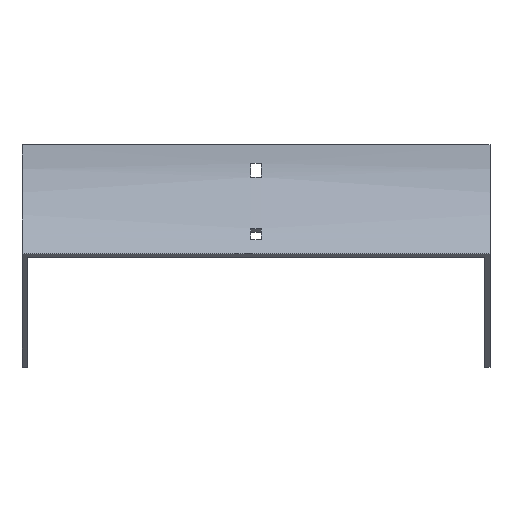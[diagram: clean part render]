
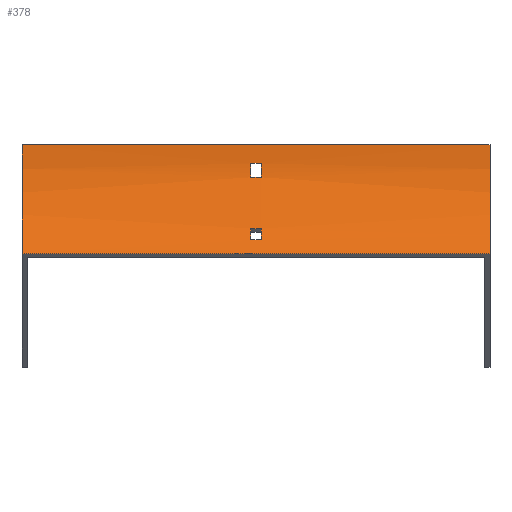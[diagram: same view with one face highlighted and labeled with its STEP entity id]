
A CAD part, front view. The second image highlights one B-rep face of the part: STEP entity #378.
In plain terms, the highlighted cylindrical face has radius 100 mm (diameter 200 mm), a partial arc.
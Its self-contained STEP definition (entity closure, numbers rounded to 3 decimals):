
#9 = VECTOR ( 'NONE', #1610, 1000. ) ;
#11 = CIRCLE ( 'NONE', #1523, 100. ) ;
#66 = EDGE_CURVE ( 'NONE', #133, #1441, #554, .T. ) ;
#84 = CARTESIAN_POINT ( 'NONE',  ( 3.25, -16.017, -54.285 ) ) ;
#92 = CIRCLE ( 'NONE', #1459, 100. ) ;
#113 = AXIS2_PLACEMENT_3D ( 'NONE', #659, #791, #1217 ) ;
#119 = EDGE_CURVE ( 'NONE', #1189, #133, #92, .T. ) ;
#123 = DIRECTION ( 'NONE',  ( -1., 0., 0. ) ) ;
#133 = VERTEX_POINT ( 'NONE', #84 ) ;
#140 = CIRCLE ( 'NONE', #1086, 100. ) ;
#175 = CARTESIAN_POINT ( 'NONE',  ( -3.25, -21.315, -61.714 ) ) ;
#181 = CARTESIAN_POINT ( 'NONE',  ( -3.25, -16.017, -54.285 ) ) ;
#188 = CARTESIAN_POINT ( 'NONE',  ( -152., 0., 0. ) ) ;
#191 = LINE ( 'NONE', #693, #9 ) ;
#205 = CARTESIAN_POINT ( 'NONE',  ( -152., -100., 0. ) ) ;
#216 = DIRECTION ( 'NONE',  ( 0., 0., 1. ) ) ;
#276 = CIRCLE ( 'NONE', #641, 100. ) ;
#305 = CARTESIAN_POINT ( 'NONE',  ( 152., -29.289, -70.711 ) ) ;
#322 = EDGE_CURVE ( 'NONE', #1247, #1499, #191, .T. ) ;
#325 = EDGE_CURVE ( 'NONE', #1441, #995, #140, .T. ) ;
#332 = DIRECTION ( 'NONE',  ( 1., 0., 0. ) ) ;
#349 = CARTESIAN_POINT ( 'NONE',  ( -3.25, -2.23, -21. ) ) ;
#354 = ORIENTED_EDGE ( 'NONE', *, *, #322, .T. ) ;
#378 = ADVANCED_FACE ( 'NONE', ( #486, #1407, #1284 ), #668, .F. ) ;
#382 = CARTESIAN_POINT ( 'NONE',  ( 152., -2.23, -21. ) ) ;
#390 = VECTOR ( 'NONE', #1413, 1000. ) ;
#395 = CARTESIAN_POINT ( 'NONE',  ( -152., -29.289, -70.711 ) ) ;
#396 = VERTEX_POINT ( 'NONE', #395 ) ;
#397 = LINE ( 'NONE', #382, #1657 ) ;
#443 = DIRECTION ( 'NONE',  ( 0., 0., -1. ) ) ;
#452 = VECTOR ( 'NONE', #332, 1000. ) ;
#453 = CARTESIAN_POINT ( 'NONE',  ( -3.25, -100., 0. ) ) ;
#463 = DIRECTION ( 'NONE',  ( 0., 0., 1. ) ) ;
#486 = FACE_OUTER_BOUND ( 'NONE', #1493, .T. ) ;
#501 = CARTESIAN_POINT ( 'NONE',  ( 3.25, -2.23, -21. ) ) ;
#506 = VECTOR ( 'NONE', #1035, 1000. ) ;
#526 = ORIENTED_EDGE ( 'NONE', *, *, #1134, .F. ) ;
#554 = LINE ( 'NONE', #1085, #1383 ) ;
#570 = ORIENTED_EDGE ( 'NONE', *, *, #1224, .T. ) ;
#578 = DIRECTION ( 'NONE',  ( -1., 0., 0. ) ) ;
#585 = DIRECTION ( 'NONE',  ( 1., 0., 0. ) ) ;
#602 = DIRECTION ( 'NONE',  ( 0., 0., 1. ) ) ;
#609 = EDGE_CURVE ( 'NONE', #1477, #1177, #276, .T. ) ;
#621 = VERTEX_POINT ( 'NONE', #305 ) ;
#632 = DIRECTION ( 'NONE',  ( -1., 0., 0. ) ) ;
#641 = AXIS2_PLACEMENT_3D ( 'NONE', #1622, #578, #443 ) ;
#659 = CARTESIAN_POINT ( 'NONE',  ( 152., -100., 0. ) ) ;
#663 = CARTESIAN_POINT ( 'NONE',  ( 152., -29.289, -70.711 ) ) ;
#668 = CYLINDRICAL_SURFACE ( 'NONE', #113, 100. ) ;
#693 = CARTESIAN_POINT ( 'NONE',  ( 152., 0., 0. ) ) ;
#721 = DIRECTION ( 'NONE',  ( 1., 0., 0. ) ) ;
#739 = EDGE_CURVE ( 'NONE', #1247, #621, #870, .T. ) ;
#780 = EDGE_CURVE ( 'NONE', #621, #396, #1576, .T. ) ;
#791 = DIRECTION ( 'NONE',  ( -1., 0., 0. ) ) ;
#839 = ORIENTED_EDGE ( 'NONE', *, *, #1118, .T. ) ;
#851 = DIRECTION ( 'NONE',  ( 0., 0., -1. ) ) ;
#870 = CIRCLE ( 'NONE', #1172, 100. ) ;
#884 = DIRECTION ( 'NONE',  ( 0., 0., 1. ) ) ;
#915 = LINE ( 'NONE', #1429, #390 ) ;
#986 = CARTESIAN_POINT ( 'NONE',  ( 3.25, -0.723, -12. ) ) ;
#995 = VERTEX_POINT ( 'NONE', #175 ) ;
#1008 = ORIENTED_EDGE ( 'NONE', *, *, #1694, .T. ) ;
#1012 = CARTESIAN_POINT ( 'NONE',  ( 152., -100., 0. ) ) ;
#1035 = DIRECTION ( 'NONE',  ( -1., 0., 0. ) ) ;
#1041 = CARTESIAN_POINT ( 'NONE',  ( 3.25, -21.315, -61.714 ) ) ;
#1071 = EDGE_CURVE ( 'NONE', #1499, #396, #1574, .T. ) ;
#1085 = CARTESIAN_POINT ( 'NONE',  ( 152., -16.017, -54.285 ) ) ;
#1086 = AXIS2_PLACEMENT_3D ( 'NONE', #453, #1503, #851 ) ;
#1091 = ORIENTED_EDGE ( 'NONE', *, *, #1071, .T. ) ;
#1105 = EDGE_LOOP ( 'NONE', ( #570, #839, #1008, #1386 ) ) ;
#1115 = DIRECTION ( 'NONE',  ( -1., 0., 0. ) ) ;
#1118 = EDGE_CURVE ( 'NONE', #1158, #1259, #11, .T. ) ;
#1134 = EDGE_CURVE ( 'NONE', #995, #1189, #1252, .T. ) ;
#1158 = VERTEX_POINT ( 'NONE', #349 ) ;
#1171 = CARTESIAN_POINT ( 'NONE',  ( -3.25, -0.723, -12. ) ) ;
#1172 = AXIS2_PLACEMENT_3D ( 'NONE', #1012, #1530, #884 ) ;
#1177 = VERTEX_POINT ( 'NONE', #501 ) ;
#1189 = VERTEX_POINT ( 'NONE', #1041 ) ;
#1213 = ORIENTED_EDGE ( 'NONE', *, *, #780, .F. ) ;
#1217 = DIRECTION ( 'NONE',  ( 0., 0., 1. ) ) ;
#1224 = EDGE_CURVE ( 'NONE', #1177, #1158, #397, .T. ) ;
#1247 = VERTEX_POINT ( 'NONE', #1431 ) ;
#1252 = LINE ( 'NONE', #1509, #452 ) ;
#1258 = AXIS2_PLACEMENT_3D ( 'NONE', #205, #1115, #602 ) ;
#1259 = VERTEX_POINT ( 'NONE', #1171 ) ;
#1272 = ORIENTED_EDGE ( 'NONE', *, *, #325, .F. ) ;
#1284 = FACE_BOUND ( 'NONE', #1505, .T. ) ;
#1296 = ORIENTED_EDGE ( 'NONE', *, *, #739, .F. ) ;
#1383 = VECTOR ( 'NONE', #123, 1000. ) ;
#1386 = ORIENTED_EDGE ( 'NONE', *, *, #609, .T. ) ;
#1407 = FACE_BOUND ( 'NONE', #1105, .T. ) ;
#1408 = CARTESIAN_POINT ( 'NONE',  ( -3.25, -100., 0. ) ) ;
#1413 = DIRECTION ( 'NONE',  ( 1., 0., 0. ) ) ;
#1429 = CARTESIAN_POINT ( 'NONE',  ( 152., -0.723, -12. ) ) ;
#1431 = CARTESIAN_POINT ( 'NONE',  ( 152., 0., 0. ) ) ;
#1441 = VERTEX_POINT ( 'NONE', #181 ) ;
#1450 = ORIENTED_EDGE ( 'NONE', *, *, #66, .F. ) ;
#1452 = ORIENTED_EDGE ( 'NONE', *, *, #119, .F. ) ;
#1459 = AXIS2_PLACEMENT_3D ( 'NONE', #1639, #585, #463 ) ;
#1477 = VERTEX_POINT ( 'NONE', #986 ) ;
#1493 = EDGE_LOOP ( 'NONE', ( #1091, #1213, #1296, #354 ) ) ;
#1499 = VERTEX_POINT ( 'NONE', #188 ) ;
#1503 = DIRECTION ( 'NONE',  ( -1., 0., 0. ) ) ;
#1505 = EDGE_LOOP ( 'NONE', ( #1272, #1450, #1452, #526 ) ) ;
#1509 = CARTESIAN_POINT ( 'NONE',  ( 152., -21.315, -61.714 ) ) ;
#1523 = AXIS2_PLACEMENT_3D ( 'NONE', #1408, #721, #216 ) ;
#1530 = DIRECTION ( 'NONE',  ( -1., 0., 0. ) ) ;
#1574 = CIRCLE ( 'NONE', #1258, 100. ) ;
#1576 = LINE ( 'NONE', #663, #506 ) ;
#1610 = DIRECTION ( 'NONE',  ( -1., 0., 0. ) ) ;
#1622 = CARTESIAN_POINT ( 'NONE',  ( 3.25, -100., 0. ) ) ;
#1639 = CARTESIAN_POINT ( 'NONE',  ( 3.25, -100., 0. ) ) ;
#1657 = VECTOR ( 'NONE', #632, 1000. ) ;
#1694 = EDGE_CURVE ( 'NONE', #1259, #1477, #915, .T. ) ;
